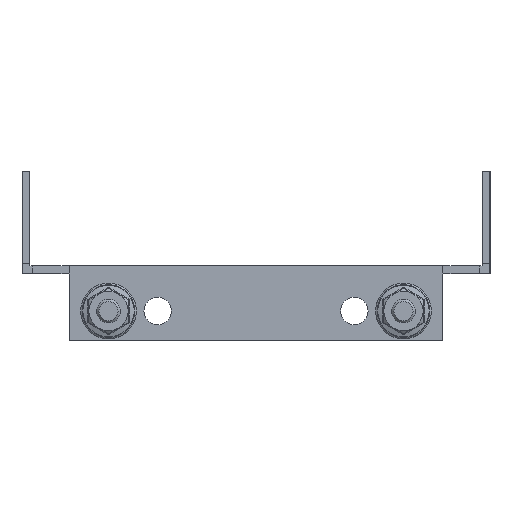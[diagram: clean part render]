
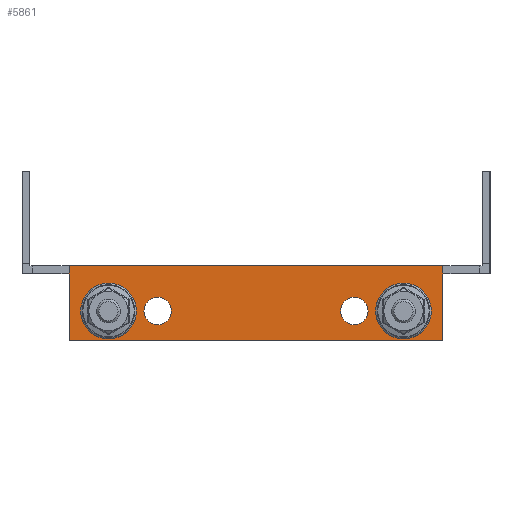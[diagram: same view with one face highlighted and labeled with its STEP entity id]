
A CAD part, left-side view. The second image highlights one B-rep face of the part: STEP entity #5861.
In plain terms, the highlighted planar face has unit normal (-1, 0, 0).
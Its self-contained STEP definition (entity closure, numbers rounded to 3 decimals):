
#1058 = VERTEX_POINT('',#1059);
#1059 = CARTESIAN_POINT('',(-150.,47.5,2.));
#1065 = EDGE_CURVE('',#1066,#1058,#1068,.T.);
#1066 = VERTEX_POINT('',#1067);
#1067 = CARTESIAN_POINT('',(-150.,-47.5,2.));
#1068 = LINE('',#1069,#1070);
#1069 = CARTESIAN_POINT('',(-150.,-57.5,2.));
#1070 = VECTOR('',#1071,1.);
#1071 = DIRECTION('',(-0.,1.,-0.));
#5740 = VERTEX_POINT('',#5741);
#5741 = CARTESIAN_POINT('',(-150.,-47.5,-0.6));
#5756 = EDGE_CURVE('',#5740,#1066,#5757,.T.);
#5757 = LINE('',#5758,#5759);
#5758 = CARTESIAN_POINT('',(-150.,-47.5,-0.6));
#5759 = VECTOR('',#5760,1.);
#5760 = DIRECTION('',(0.,-0.,1.));
#5780 = VERTEX_POINT('',#5781);
#5781 = CARTESIAN_POINT('',(-150.,47.5,-0.6));
#5787 = EDGE_CURVE('',#5780,#1058,#5788,.T.);
#5788 = LINE('',#5789,#5790);
#5789 = CARTESIAN_POINT('',(-150.,47.5,0.));
#5790 = VECTOR('',#5791,1.);
#5791 = DIRECTION('',(0.,0.,1.));
#5803 = EDGE_CURVE('',#5804,#5780,#5806,.T.);
#5804 = VERTEX_POINT('',#5805);
#5805 = CARTESIAN_POINT('',(-150.,47.5,-17.));
#5806 = LINE('',#5807,#5808);
#5807 = CARTESIAN_POINT('',(-150.,47.5,0.));
#5808 = VECTOR('',#5809,1.);
#5809 = DIRECTION('',(0.,-0.,1.));
#5843 = EDGE_CURVE('',#5740,#5844,#5846,.T.);
#5844 = VERTEX_POINT('',#5845);
#5845 = CARTESIAN_POINT('',(-150.,-47.5,-17.));
#5846 = LINE('',#5847,#5848);
#5847 = CARTESIAN_POINT('',(-150.,-47.5,-17.));
#5848 = VECTOR('',#5849,1.);
#5849 = DIRECTION('',(0.,-0.,-1.));
#5861 = ADVANCED_FACE('',(#5862,#5882,#5902,#5913,#5924),#5937,.T.);
#5862 = FACE_BOUND('',#5863,.T.);
#5863 = EDGE_LOOP('',(#5864,#5875));
#5864 = ORIENTED_EDGE('',*,*,#5865,.F.);
#5865 = EDGE_CURVE('',#5866,#5868,#5870,.T.);
#5866 = VERTEX_POINT('',#5867);
#5867 = CARTESIAN_POINT('',(-150.,-37.5,-13.));
#5868 = VERTEX_POINT('',#5869);
#5869 = CARTESIAN_POINT('',(-150.,-37.5,-6.));
#5870 = CIRCLE('',#5871,3.5);
#5871 = AXIS2_PLACEMENT_3D('',#5872,#5873,#5874);
#5872 = CARTESIAN_POINT('',(-150.,-37.5,-9.5));
#5873 = DIRECTION('',(-1.,0.,0.));
#5874 = DIRECTION('',(0.,0.,-1.));
#5875 = ORIENTED_EDGE('',*,*,#5876,.F.);
#5876 = EDGE_CURVE('',#5868,#5866,#5877,.T.);
#5877 = CIRCLE('',#5878,3.5);
#5878 = AXIS2_PLACEMENT_3D('',#5879,#5880,#5881);
#5879 = CARTESIAN_POINT('',(-150.,-37.5,-9.5));
#5880 = DIRECTION('',(-1.,0.,0.));
#5881 = DIRECTION('',(0.,0.,-1.));
#5882 = FACE_BOUND('',#5883,.T.);
#5883 = EDGE_LOOP('',(#5884,#5895));
#5884 = ORIENTED_EDGE('',*,*,#5885,.F.);
#5885 = EDGE_CURVE('',#5886,#5888,#5890,.T.);
#5886 = VERTEX_POINT('',#5887);
#5887 = CARTESIAN_POINT('',(-150.,-25.,-13.));
#5888 = VERTEX_POINT('',#5889);
#5889 = CARTESIAN_POINT('',(-150.,-25.,-6.));
#5890 = CIRCLE('',#5891,3.5);
#5891 = AXIS2_PLACEMENT_3D('',#5892,#5893,#5894);
#5892 = CARTESIAN_POINT('',(-150.,-25.,-9.5));
#5893 = DIRECTION('',(-1.,0.,0.));
#5894 = DIRECTION('',(0.,0.,-1.));
#5895 = ORIENTED_EDGE('',*,*,#5896,.F.);
#5896 = EDGE_CURVE('',#5888,#5886,#5897,.T.);
#5897 = CIRCLE('',#5898,3.5);
#5898 = AXIS2_PLACEMENT_3D('',#5899,#5900,#5901);
#5899 = CARTESIAN_POINT('',(-150.,-25.,-9.5));
#5900 = DIRECTION('',(-1.,0.,0.));
#5901 = DIRECTION('',(0.,0.,-1.));
#5902 = FACE_BOUND('',#5903,.T.);
#5903 = EDGE_LOOP('',(#5904));
#5904 = ORIENTED_EDGE('',*,*,#5905,.F.);
#5905 = EDGE_CURVE('',#5906,#5906,#5908,.T.);
#5906 = VERTEX_POINT('',#5907);
#5907 = CARTESIAN_POINT('',(-150.,25.,-6.));
#5908 = CIRCLE('',#5909,3.5);
#5909 = AXIS2_PLACEMENT_3D('',#5910,#5911,#5912);
#5910 = CARTESIAN_POINT('',(-150.,25.,-9.5));
#5911 = DIRECTION('',(-1.,0.,0.));
#5912 = DIRECTION('',(0.,0.,1.));
#5913 = FACE_BOUND('',#5914,.T.);
#5914 = EDGE_LOOP('',(#5915));
#5915 = ORIENTED_EDGE('',*,*,#5916,.F.);
#5916 = EDGE_CURVE('',#5917,#5917,#5919,.T.);
#5917 = VERTEX_POINT('',#5918);
#5918 = CARTESIAN_POINT('',(-150.,37.5,-6.));
#5919 = CIRCLE('',#5920,3.5);
#5920 = AXIS2_PLACEMENT_3D('',#5921,#5922,#5923);
#5921 = CARTESIAN_POINT('',(-150.,37.5,-9.5));
#5922 = DIRECTION('',(-1.,0.,0.));
#5923 = DIRECTION('',(0.,0.,1.));
#5924 = FACE_BOUND('',#5925,.T.);
#5925 = EDGE_LOOP('',(#5926,#5927,#5928,#5929,#5930,#5931));
#5926 = ORIENTED_EDGE('',*,*,#5843,.F.);
#5927 = ORIENTED_EDGE('',*,*,#5756,.T.);
#5928 = ORIENTED_EDGE('',*,*,#1065,.T.);
#5929 = ORIENTED_EDGE('',*,*,#5787,.F.);
#5930 = ORIENTED_EDGE('',*,*,#5803,.F.);
#5931 = ORIENTED_EDGE('',*,*,#5932,.F.);
#5932 = EDGE_CURVE('',#5844,#5804,#5933,.T.);
#5933 = LINE('',#5934,#5935);
#5934 = CARTESIAN_POINT('',(-150.,47.5,-17.));
#5935 = VECTOR('',#5936,1.);
#5936 = DIRECTION('',(-0.,1.,-0.));
#5937 = PLANE('',#5938);
#5938 = AXIS2_PLACEMENT_3D('',#5939,#5940,#5941);
#5939 = CARTESIAN_POINT('',(-150.,47.5,0.));
#5940 = DIRECTION('',(-1.,0.,0.));
#5941 = DIRECTION('',(0.,0.,1.));
